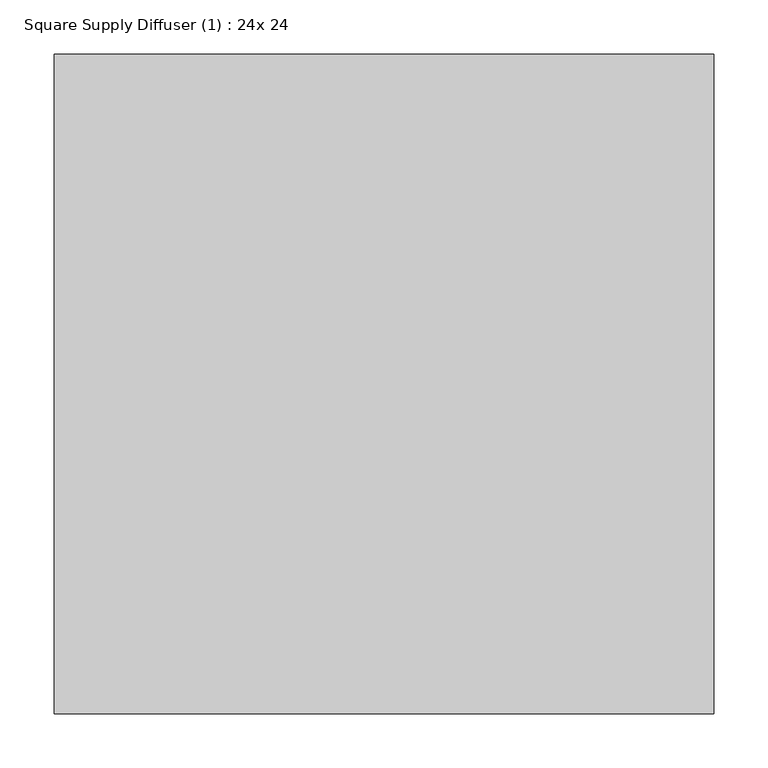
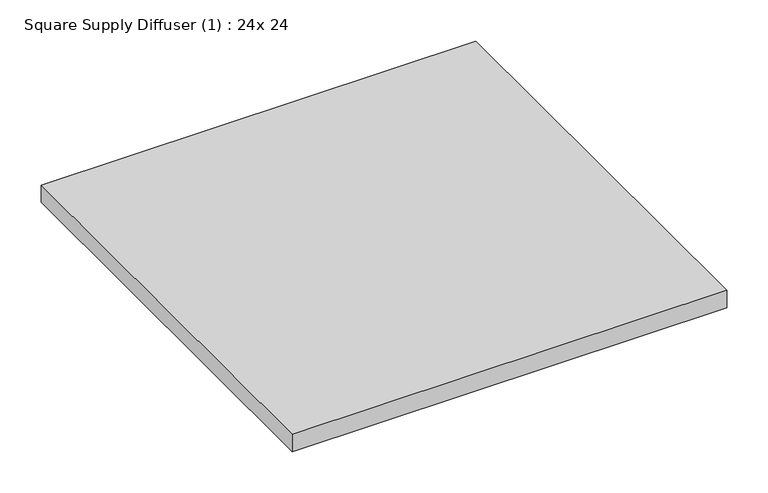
"""IFC4 building model written with IfcOpenShell, lengths in millimetres: air terminal geometry, Square Supply Diffuser (1) : 24x 24."""

from ifc_helpers import new_model, si_unit, frame, origin, place, context, project, spatial, polyline, outline, extrude, source, transform, mapped, element, save


def square_supply_diffuser_1_24x_24_ffa0757b(model_context):
    return source(origin(), model_context, "Body", "SweptSolid", [
        extrude(outline(polyline([(304.8, 304.8), (304.8, -304.8), (-304.8, -304.8), (-304.8, 304.8), (304.8, 304.8)])), frame((0.0, 0.0, 2413.0), z_axis=(0.0, 0.0, 1.0), x_axis=(1.0, 0.0, 0.0)), (0.0, 0.0, 1.0), 25.4),
    ])


if __name__ == "__main__":
    model = new_model("IFC4")
    model_context = context("Model", 3, world=origin())
    ifc_project = project(units=[si_unit("LENGTHUNIT", "METRE", prefix="MILLI")], contexts=[model_context])
    site = spatial("IfcSite", under=ifc_project)
    building = spatial("IfcBuilding", under=site)
    placement = place(None, origin())
    square_supply_diffuser_1_24x_24_shape = square_supply_diffuser_1_24x_24_ffa0757b(model_context)
    element("IfcAirTerminal", 1, ObjectType="Square Supply Diffuser (1) : 24x 24", at=placement, inside=building, context=model_context, shape_type="MappedRepresentation", body=[
        mapped(square_supply_diffuser_1_24x_24_shape, transform((0.0, 0.0, 0.0), x_axis=(1.0, 0.0, 0.0), y_axis=(0.0, 1.0, 0.0), z_axis=(0.0, 0.0, 1.0))),
    ])
    save(model, "model.ifc")
